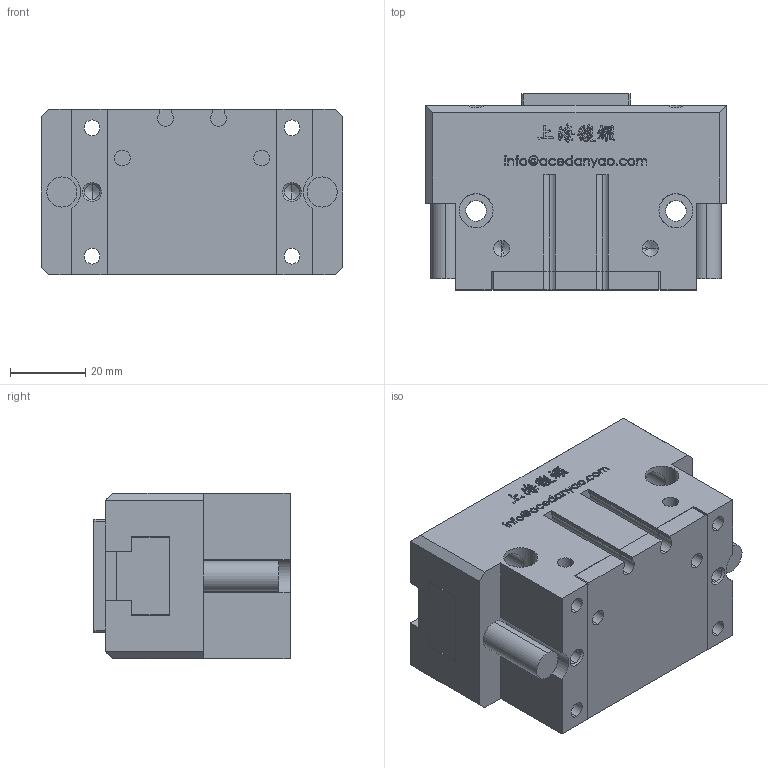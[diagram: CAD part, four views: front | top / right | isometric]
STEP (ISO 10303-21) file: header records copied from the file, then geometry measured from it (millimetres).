
FILE_DESCRIPTION (( 'STEP AP203' ), '1' );
FILE_NAME ('OPP2-80-C2-原始檔-組合-W106.04.19.STEP', '2017-04-19T01:01:13', ( 'DanyaoCAD' ), ( '' ), 'SwSTEP 2.0', 'SolidWorks 2016', '' );
FILE_SCHEMA (( 'CONFIG_CONTROL_DESIGN' ));
Length unit declared in the file: millimetre
Products named in the file (5): Coperchio; Fondello; OPP2-80-C2-原始檔-組合-W106.04.19; Corpo; Griffa
Assembly tree (5 placements, depth 2):
  OPP2-80-C2-原始檔-組合-W106.04.19
    Corpo
    Griffa  x2
    Coperchio
    Fondello
Bounding box: 80 x 52 x 44 mm (x, y, z)
Volume: 140039.5 mm3; surface area: 43553.6 mm2
Topology: 5 solids, 5 shells, 1050 faces, 2934 edges, 1934 vertices
Faces by surface type: bspline 640, plane 266, cylinder 98, cone 46
Entity records: 49946 total; most frequent: CARTESIAN_POINT 27481, ORIENTED_EDGE 5674, EDGE_CURVE 2837, DIRECTION 2511, VERTEX_POINT 1884, VECTOR 1323, LINE 1323, B_SPLINE_CURVE_WITH_KNOTS 1302
